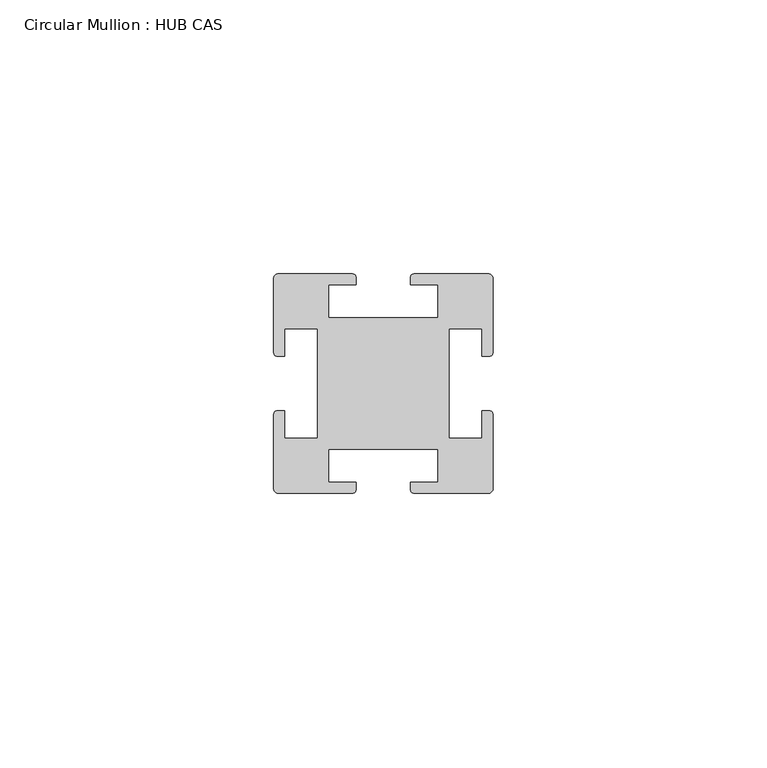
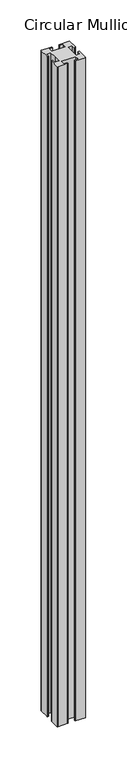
"""IFC4 building model written with IfcOpenShell, lengths in millimetres: member geometry, Circular Mullion : HUB CAS."""

from ifc_helpers import new_model, si_unit, point, frame, frame_2d, origin, place, context, project, spatial, polyline, circle_curve, trimmed, segment, composite_curve, outline, extrude, source, transform, mapped, element, save


def circular_mullion_hub_cas_c634fec4(model_context):
    return source(origin(), model_context, "Body", "SweptSolid", [
        extrude(outline(composite_curve([segment(polyline([(5.601076, 2.0892375), (19.298924, 2.0892375)]), True, "CONTINUOUS"), segment(trimmed(circle_curve(frame_2d((19.298924, 1.3892375)), 0.7), [point((19.298924, 2.0892375))], [point((19.998924, 1.3892375))], False, "CARTESIAN"), True, "CONTINUOUS"), segment(polyline([(19.998924, 1.3892375), (19.998924, -12.3107625)]), True, "CONTINUOUS"), segment(trimmed(circle_curve(frame_2d((19.398924, -12.3107625)), 0.6), [point((19.998924, -12.3107625))], [point((19.398924, -12.9107625))], False, "CARTESIAN"), True, "CONTINUOUS"), segment(polyline([(19.398924, -12.9107625), (17.998924, -12.9107625), (17.998924, -7.9107625), (11.998924, -7.9107625), (11.998924, -17.9107625), (11.998924, -27.9107625), (17.998924, -27.9107625), (17.998924, -22.9107625), (19.398924, -22.9107625)]), True, "CONTINUOUS"), segment(trimmed(circle_curve(frame_2d((19.398924, -23.5107625)), 0.6), [point((19.398924, -22.9107625))], [point((19.998924, -23.5107625))], False, "CARTESIAN"), True, "CONTINUOUS"), segment(polyline([(19.998924, -23.5107625), (19.998924, -37.2107625)]), True, "CONTINUOUS"), segment(trimmed(circle_curve(frame_2d((19.298924, -37.2107625)), 0.7), [point((19.998924, -37.2107625))], [point((19.298924, -37.9107625))], False, "CARTESIAN"), True, "CONTINUOUS"), segment(polyline([(19.298924, -37.9107625), (5.601076, -37.9107625)]), True, "CONTINUOUS"), segment(trimmed(circle_curve(frame_2d((5.601076, -37.3107625)), 0.6), [point((5.601076, -37.9107625))], [point((5.001076, -37.3107625))], False, "CARTESIAN"), True, "CONTINUOUS"), segment(polyline([(5.001076, -37.3107625), (5.001076, -35.910257), (9.998924, -35.910257), (9.998924, -29.9107625), (-9.998924, -29.9107625), (-9.998924, -35.910257), (-5.001076, -35.910257), (-5.001076, -37.3107625)]), True, "CONTINUOUS"), segment(trimmed(circle_curve(frame_2d((-5.601076, -37.3107625)), 0.6), [point((-5.001076, -37.3107625))], [point((-5.601076, -37.9107625))], False, "CARTESIAN"), True, "CONTINUOUS"), segment(polyline([(-5.601076, -37.9107625), (-19.298924, -37.9107625)]), True, "CONTINUOUS"), segment(trimmed(circle_curve(frame_2d((-19.298924, -37.2107625)), 0.7), [point((-19.298924, -37.9107625))], [point((-19.998924, -37.2107625))], False, "CARTESIAN"), True, "CONTINUOUS"), segment(polyline([(-19.998924, -37.2107625), (-19.998924, -23.5107625)]), True, "CONTINUOUS"), segment(trimmed(circle_curve(frame_2d((-19.398924, -23.5107625)), 0.6), [point((-19.998924, -23.5107625))], [point((-19.398924, -22.9107625))], False, "CARTESIAN"), True, "CONTINUOUS"), segment(polyline([(-19.398924, -22.9107625), (-17.998924, -22.9107625), (-17.998924, -27.9107625), (-11.998924, -27.9107625), (-11.998924, -17.9107625), (-11.998924, -7.9107625), (-17.998924, -7.9107625), (-17.998924, -12.9107625), (-19.398924, -12.9107625)]), True, "CONTINUOUS"), segment(trimmed(circle_curve(frame_2d((-19.398924, -12.3107625)), 0.6), [point((-19.398924, -12.9107625))], [point((-19.998924, -12.3107625))], False, "CARTESIAN"), True, "CONTINUOUS"), segment(polyline([(-19.998924, -12.3107625), (-19.998924, 1.3892375)]), True, "CONTINUOUS"), segment(trimmed(circle_curve(frame_2d((-19.298924, 1.3892375)), 0.7), [point((-19.998924, 1.3892375))], [point((-19.298924, 2.0892375))], False, "CARTESIAN"), True, "CONTINUOUS"), segment(polyline([(-19.298924, 2.0892375), (-5.601076, 2.0892375)]), True, "CONTINUOUS"), segment(trimmed(circle_curve(frame_2d((-5.601076, 1.4892375)), 0.6), [point((-5.601076, 2.0892375))], [point((-5.001076, 1.4892375))], False, "CARTESIAN"), True, "CONTINUOUS"), segment(polyline([(-5.001076, 1.4892375), (-5.001076, 0.0887321), (-9.998924, 0.0887321), (-9.998924, -5.9107625), (9.998924, -5.9107625), (9.998924, 0.0887321), (5.001076, 0.0887321), (5.001076, 1.4892375)]), True, "CONTINUOUS"), segment(trimmed(circle_curve(frame_2d((5.601076, 1.4892375)), 0.6), [point((5.001076, 1.4892375))], [point((5.601076, 2.0892375))], False, "CARTESIAN"), True, "CONTINUOUS")], self_intersect=False)), frame((0.0, 0.0, -980.0010763), z_axis=(0.0, 0.0, 1.0), x_axis=(1.0, 0.0, 0.0)), (0.0, 0.0, 1.0), 980.0010763),
    ])


if __name__ == "__main__":
    model = new_model("IFC4")
    model_context = context("Model", 3, world=origin())
    ifc_project = project(units=[si_unit("LENGTHUNIT", "METRE", prefix="MILLI")], contexts=[model_context])
    site = spatial("IfcSite", under=ifc_project)
    building = spatial("IfcBuilding", under=site)
    placement = place(None, origin())
    circular_mullion_hub_cas_shape = circular_mullion_hub_cas_c634fec4(model_context)
    element("IfcMember", 1, ObjectType="Circular Mullion : HUB CAS", at=placement, inside=building, context=model_context, shape_type="MappedRepresentation", body=[
        mapped(circular_mullion_hub_cas_shape, transform((0.0, 0.0, 0.0), x_axis=(1.0, 0.0, 0.0), y_axis=(0.0, 1.0, 0.0), z_axis=(0.0, 0.0, 1.0))),
    ])
    save(model, "model.ifc")
